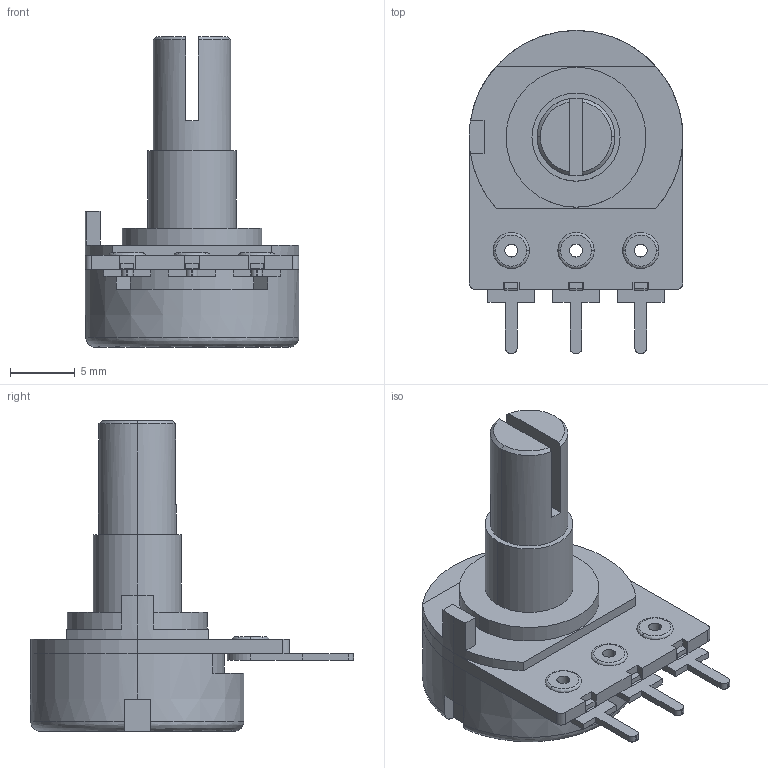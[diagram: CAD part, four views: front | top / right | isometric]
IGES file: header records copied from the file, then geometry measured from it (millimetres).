
Start section: START RECORD GO HERE.
Global section: file name: Potentiometer.igs; native system: IBM CATIA IGES - CATIA Version 5 Release 19 ; preprocessor: CATIA Version 5 Release 19 ; author: admin; organization: M0815; date: 20241217.120028; units: millimetre
Bounding box: 16.5 x 24.95 x 24 mm (x, y, z)
Surface area: 2434 mm2 (no closed solid volume)
Topology: 0 solids, 0 shells, 159 faces, 824 edges, 824 vertices
Faces by surface type: plane 98, revolution 55, extrusion 6
